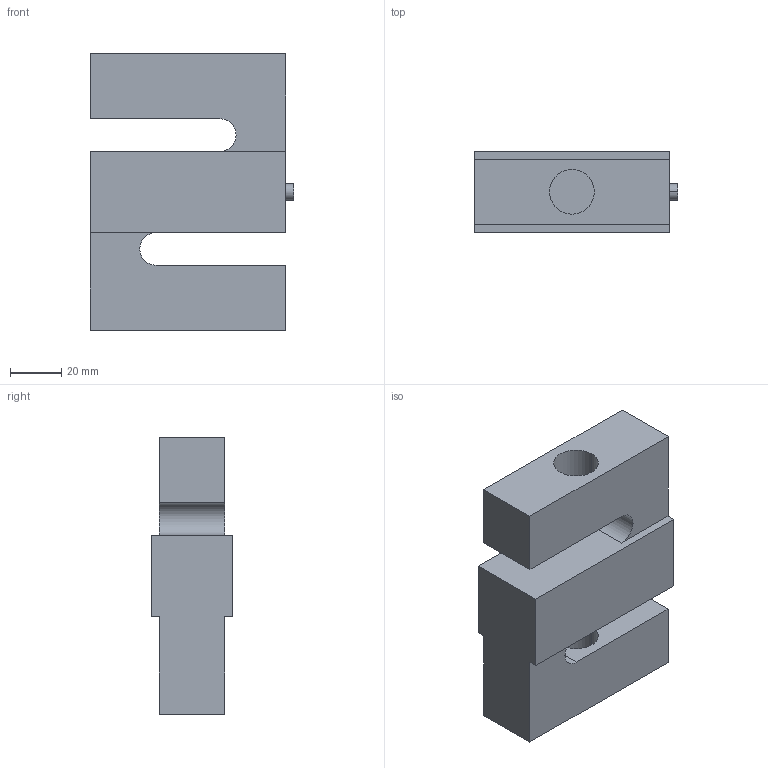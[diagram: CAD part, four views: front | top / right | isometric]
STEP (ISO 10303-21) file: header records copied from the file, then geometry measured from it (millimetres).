
FILE_DESCRIPTION (( 'STEP AP214' ), '1' );
FILE_NAME ('SS1009-5K.STEP', '2014-05-20T18:49:38', ( '' ), ( '' ), 'SwSTEP 2.0', 'SolidWorks 2008', '' );
FILE_SCHEMA (( 'AUTOMOTIVE_DESIGN' ));
Length unit declared in the file: inch
Products named in the file (1): SS1009-5K
Bounding box: 79.38 x 31.75 x 107.95 mm (x, y, z)
Volume: 176404.1 mm3; surface area: 31752.2 mm2
Topology: 1 solids, 1 shells, 25 faces, 66 edges, 44 vertices
Faces by surface type: plane 17, cylinder 8
Entity records: 863 total; most frequent: CARTESIAN_POINT 136, DIRECTION 134, ORIENTED_EDGE 132, EDGE_CURVE 66, VECTOR 50, LINE 50, VERTEX_POINT 44, AXIS2_PLACEMENT_3D 42
